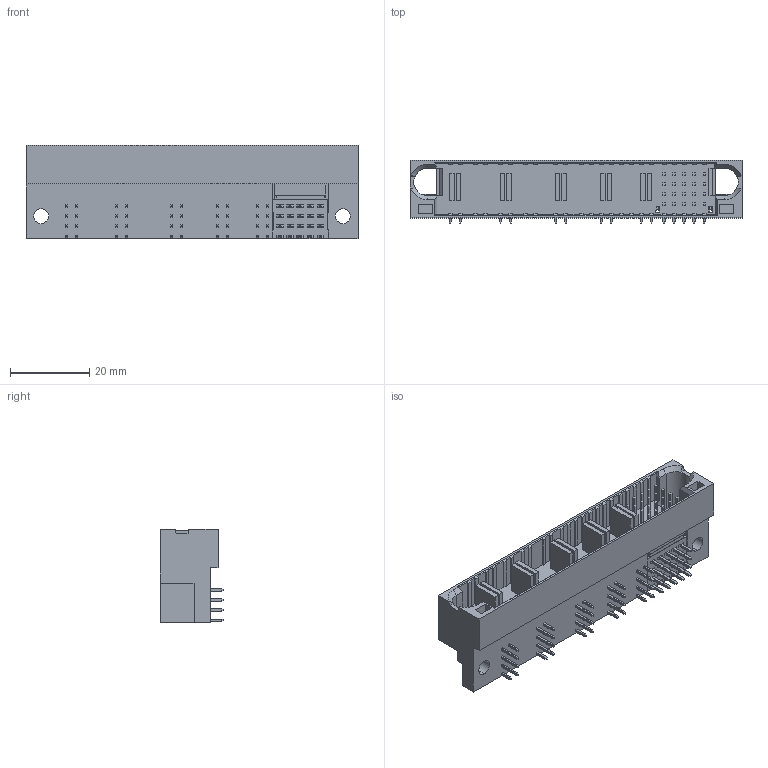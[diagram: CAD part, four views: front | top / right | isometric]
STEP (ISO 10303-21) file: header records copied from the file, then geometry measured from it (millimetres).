
FILE_DESCRIPTION (( 'STEP AP203' ), '1' );
FILE_NAME ('9391-A1P4AP1PH4S20CB30DA-A056.STEP', '2025-12-30T10:39:20', ( '' ), ( '' ), 'SwSTEP 2.0', 'SolidWorks 2011', '' );
FILE_SCHEMA (( 'CONFIG_CONTROL_DESIGN' ));
Length unit declared in the file: millimetre
Products named in the file (1): 9391-A1P4AP1PH4S20CB30DA-A056
Bounding box: 83.82 x 16 x 23.62 mm (x, y, z)
Volume: 17261.6 mm3; surface area: 11590.3 mm2
Topology: 1 solids, 3 shells, 1379 faces, 3568 edges, 2291 vertices
Faces by surface type: plane 1279, cylinder 96, cone 4
Entity records: 41101 total; most frequent: CARTESIAN_POINT 7251, ORIENTED_EDGE 7136, DIRECTION 6526, EDGE_CURVE 3568, LINE 3362, VECTOR 3362, VERTEX_POINT 2291, AXIS2_PLACEMENT_3D 1582
